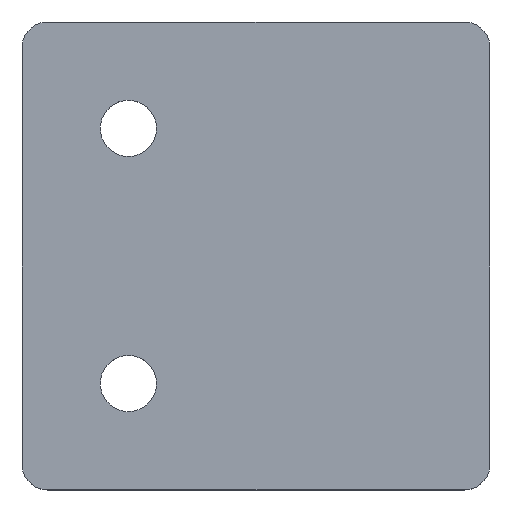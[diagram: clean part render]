
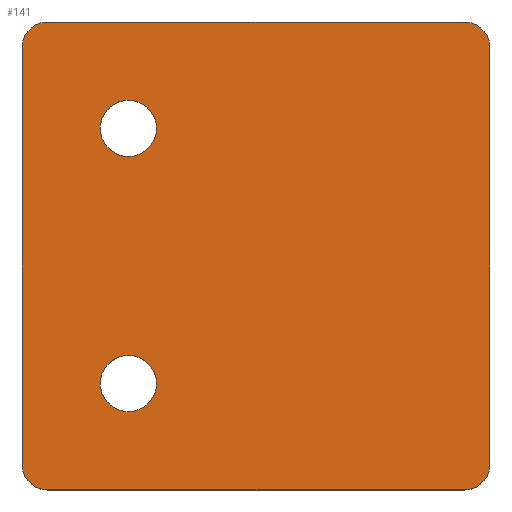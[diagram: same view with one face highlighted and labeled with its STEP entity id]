
A CAD part, top view. The second image highlights one B-rep face of the part: STEP entity #141.
In plain terms, the highlighted planar face has unit normal (0, 0, 1).
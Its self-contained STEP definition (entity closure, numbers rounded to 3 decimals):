
#1 = EDGE_CURVE ( 'NONE', #58, #421, #40, .T. ) ;
#5 = DIRECTION ( 'NONE',  ( 0., 0., 1. ) ) ;
#15 = ORIENTED_EDGE ( 'NONE', *, *, #418, .T. ) ;
#23 = ORIENTED_EDGE ( 'NONE', *, *, #215, .T. ) ;
#36 = VERTEX_POINT ( 'NONE', #135 ) ;
#40 = CIRCLE ( 'NONE', #66, 3. ) ;
#42 = CARTESIAN_POINT ( 'NONE',  ( 9.2, 12.5, 3.2 ) ) ;
#43 = LINE ( 'NONE', #101, #372 ) ;
#47 = CIRCLE ( 'NONE', #348, 3. ) ;
#48 = CIRCLE ( 'NONE', #187, 3.3 ) ;
#54 = DIRECTION ( 'NONE',  ( 0., 0., 1. ) ) ;
#57 = EDGE_CURVE ( 'NONE', #234, #450, #175, .T. ) ;
#58 = VERTEX_POINT ( 'NONE', #490 ) ;
#61 = DIRECTION ( 'NONE',  ( -1., 0., 0. ) ) ;
#66 = AXIS2_PLACEMENT_3D ( 'NONE', #452, #54, #106 ) ;
#75 = EDGE_CURVE ( 'NONE', #354, #110, #342, .T. ) ;
#78 = LINE ( 'NONE', #201, #334 ) ;
#89 = CARTESIAN_POINT ( 'NONE',  ( 55., 3., 3.2 ) ) ;
#101 = CARTESIAN_POINT ( 'NONE',  ( 3., 55., 3.2 ) ) ;
#104 = EDGE_CURVE ( 'NONE', #146, #36, #300, .T. ) ;
#106 = DIRECTION ( 'NONE',  ( 1., 0., 0. ) ) ;
#109 = VERTEX_POINT ( 'NONE', #212 ) ;
#110 = VERTEX_POINT ( 'NONE', #444 ) ;
#114 = VERTEX_POINT ( 'NONE', #42 ) ;
#116 = ORIENTED_EDGE ( 'NONE', *, *, #185, .F. ) ;
#117 = AXIS2_PLACEMENT_3D ( 'NONE', #392, #360, #518 ) ;
#118 = DIRECTION ( 'NONE',  ( 1., 0., 0. ) ) ;
#123 = DIRECTION ( 'NONE',  ( 0., -1., 0. ) ) ;
#129 = CARTESIAN_POINT ( 'NONE',  ( 0., 3., 3.2 ) ) ;
#131 = AXIS2_PLACEMENT_3D ( 'NONE', #137, #5, #296 ) ;
#135 = CARTESIAN_POINT ( 'NONE',  ( 3., 0., 3.2 ) ) ;
#137 = CARTESIAN_POINT ( 'NONE',  ( 3., 3., 3.2 ) ) ;
#141 = ADVANCED_FACE ( 'NONE', ( #520, #202, #327 ), #356, .T. ) ;
#142 = DIRECTION ( 'NONE',  ( 0., 0., 1. ) ) ;
#144 = ORIENTED_EDGE ( 'NONE', *, *, #1, .T. ) ;
#146 = VERTEX_POINT ( 'NONE', #129 ) ;
#147 = ORIENTED_EDGE ( 'NONE', *, *, #75, .T. ) ;
#156 = VECTOR ( 'NONE', #328, 1000. ) ;
#160 = DIRECTION ( 'NONE',  ( -1., 0., 0. ) ) ;
#163 = EDGE_CURVE ( 'NONE', #114, #109, #410, .T. ) ;
#169 = EDGE_CURVE ( 'NONE', #36, #350, #78, .T. ) ;
#175 = CIRCLE ( 'NONE', #371, 3.3 ) ;
#181 = VECTOR ( 'NONE', #123, 1000. ) ;
#185 = EDGE_CURVE ( 'NONE', #450, #234, #493, .T. ) ;
#187 = AXIS2_PLACEMENT_3D ( 'NONE', #204, #353, #272 ) ;
#197 = DIRECTION ( 'NONE',  ( 0., 0., 1. ) ) ;
#201 = CARTESIAN_POINT ( 'NONE',  ( 3., 0., 3.2 ) ) ;
#202 = FACE_BOUND ( 'NONE', #506, .T. ) ;
#204 = CARTESIAN_POINT ( 'NONE',  ( 12.5, 12.5, 3.2 ) ) ;
#206 = CARTESIAN_POINT ( 'NONE',  ( 3., 52., 3.2 ) ) ;
#212 = CARTESIAN_POINT ( 'NONE',  ( 15.8, 12.5, 3.2 ) ) ;
#215 = EDGE_CURVE ( 'NONE', #421, #146, #239, .T. ) ;
#221 = CARTESIAN_POINT ( 'NONE',  ( 12.5, 42.5, 3.2 ) ) ;
#229 = AXIS2_PLACEMENT_3D ( 'NONE', #293, #142, #301 ) ;
#234 = VERTEX_POINT ( 'NONE', #523 ) ;
#239 = LINE ( 'NONE', #472, #181 ) ;
#247 = CARTESIAN_POINT ( 'NONE',  ( 55., 52., 3.2 ) ) ;
#259 = DIRECTION ( 'NONE',  ( 1., 0., 0. ) ) ;
#260 = CARTESIAN_POINT ( 'NONE',  ( 0., 52., 3.2 ) ) ;
#272 = DIRECTION ( 'NONE',  ( 1., 0., 0. ) ) ;
#285 = EDGE_CURVE ( 'NONE', #361, #354, #331, .T. ) ;
#293 = CARTESIAN_POINT ( 'NONE',  ( 52., 52., 3.2 ) ) ;
#296 = DIRECTION ( 'NONE',  ( -1., 0., 0. ) ) ;
#300 = CIRCLE ( 'NONE', #131, 3. ) ;
#301 = DIRECTION ( 'NONE',  ( 1., 0., 0. ) ) ;
#303 = ORIENTED_EDGE ( 'NONE', *, *, #104, .T. ) ;
#304 = ORIENTED_EDGE ( 'NONE', *, *, #57, .F. ) ;
#307 = ORIENTED_EDGE ( 'NONE', *, *, #285, .T. ) ;
#325 = ORIENTED_EDGE ( 'NONE', *, *, #169, .T. ) ;
#327 = FACE_OUTER_BOUND ( 'NONE', #383, .T. ) ;
#328 = DIRECTION ( 'NONE',  ( 0., 1., 0. ) ) ;
#330 = AXIS2_PLACEMENT_3D ( 'NONE', #362, #509, #522 ) ;
#331 = LINE ( 'NONE', #89, #156 ) ;
#333 = DIRECTION ( 'NONE',  ( 0., 0., 1. ) ) ;
#334 = VECTOR ( 'NONE', #398, 1000. ) ;
#342 = CIRCLE ( 'NONE', #229, 3. ) ;
#348 = AXIS2_PLACEMENT_3D ( 'NONE', #420, #197, #160 ) ;
#350 = VERTEX_POINT ( 'NONE', #440 ) ;
#353 = DIRECTION ( 'NONE',  ( 0., 0., 1. ) ) ;
#354 = VERTEX_POINT ( 'NONE', #247 ) ;
#356 = PLANE ( 'NONE',  #501 ) ;
#360 = DIRECTION ( 'NONE',  ( 0., 0., 1. ) ) ;
#361 = VERTEX_POINT ( 'NONE', #365 ) ;
#362 = CARTESIAN_POINT ( 'NONE',  ( 12.5, 12.5, 3.2 ) ) ;
#365 = CARTESIAN_POINT ( 'NONE',  ( 55., 3., 3.2 ) ) ;
#371 = AXIS2_PLACEMENT_3D ( 'NONE', #221, #333, #259 ) ;
#372 = VECTOR ( 'NONE', #61, 1000. ) ;
#383 = EDGE_LOOP ( 'NONE', ( #144, #23, #303, #325, #485, #307, #147, #15 ) ) ;
#385 = ORIENTED_EDGE ( 'NONE', *, *, #462, .F. ) ;
#392 = CARTESIAN_POINT ( 'NONE',  ( 12.5, 42.5, 3.2 ) ) ;
#398 = DIRECTION ( 'NONE',  ( 1., 0., 0. ) ) ;
#410 = CIRCLE ( 'NONE', #330, 3.3 ) ;
#418 = EDGE_CURVE ( 'NONE', #110, #58, #43, .T. ) ;
#420 = CARTESIAN_POINT ( 'NONE',  ( 52., 3., 3.2 ) ) ;
#421 = VERTEX_POINT ( 'NONE', #260 ) ;
#440 = CARTESIAN_POINT ( 'NONE',  ( 52., 0., 3.2 ) ) ;
#444 = CARTESIAN_POINT ( 'NONE',  ( 52., 55., 3.2 ) ) ;
#450 = VERTEX_POINT ( 'NONE', #500 ) ;
#452 = CARTESIAN_POINT ( 'NONE',  ( 3., 52., 3.2 ) ) ;
#456 = EDGE_LOOP ( 'NONE', ( #304, #116 ) ) ;
#462 = EDGE_CURVE ( 'NONE', #109, #114, #48, .T. ) ;
#472 = CARTESIAN_POINT ( 'NONE',  ( 0., 3., 3.2 ) ) ;
#475 = ORIENTED_EDGE ( 'NONE', *, *, #163, .F. ) ;
#476 = DIRECTION ( 'NONE',  ( 0., 0., 1. ) ) ;
#485 = ORIENTED_EDGE ( 'NONE', *, *, #489, .T. ) ;
#489 = EDGE_CURVE ( 'NONE', #350, #361, #47, .T. ) ;
#490 = CARTESIAN_POINT ( 'NONE',  ( 3., 55., 3.2 ) ) ;
#493 = CIRCLE ( 'NONE', #117, 3.3 ) ;
#500 = CARTESIAN_POINT ( 'NONE',  ( 9.2, 42.5, 3.2 ) ) ;
#501 = AXIS2_PLACEMENT_3D ( 'NONE', #206, #476, #118 ) ;
#506 = EDGE_LOOP ( 'NONE', ( #385, #475 ) ) ;
#509 = DIRECTION ( 'NONE',  ( 0., 0., 1. ) ) ;
#518 = DIRECTION ( 'NONE',  ( 1., 0., 0. ) ) ;
#520 = FACE_BOUND ( 'NONE', #456, .T. ) ;
#522 = DIRECTION ( 'NONE',  ( 1., 0., 0. ) ) ;
#523 = CARTESIAN_POINT ( 'NONE',  ( 15.8, 42.5, 3.2 ) ) ;
